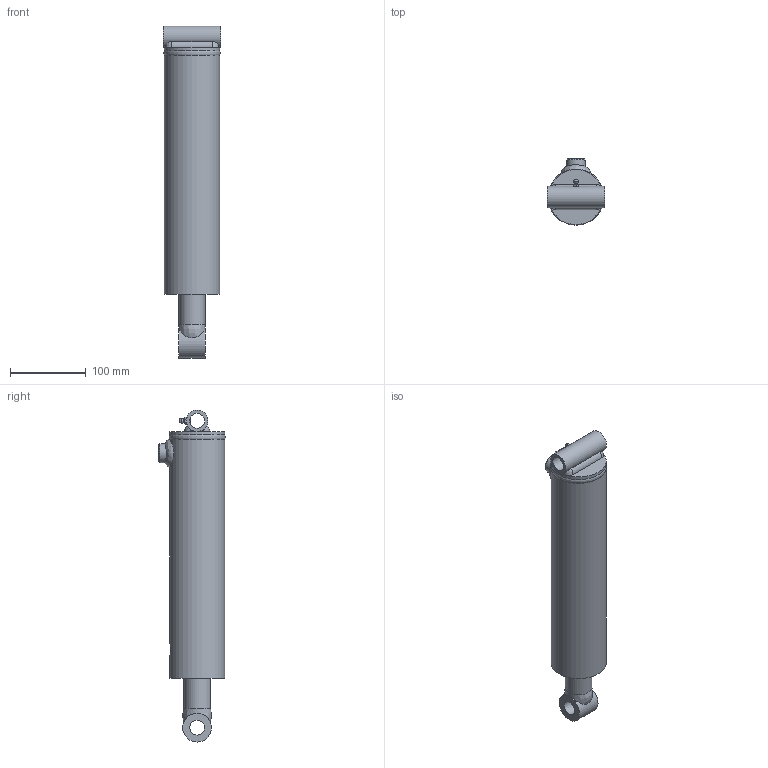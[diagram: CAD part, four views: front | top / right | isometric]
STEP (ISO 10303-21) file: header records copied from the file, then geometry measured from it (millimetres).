
FILE_DESCRIPTION((''),'2;1');
FILE_NAME('\\SRVR-ENG\EngSales\pmc-5408.stp','2012-04-30T08:15:25',('KneiflD'),(''),'Autodesk Inventor 2012','Autodesk Inventor 2012','');
FILE_SCHEMA(('AUTOMOTIVE_DESIGN { 1 0 10303 214 1 1 1 1 }'));
Length unit declared in the file: inch
Products named in the file (16): pmc-5408; 061300043; 051300068; 161300005; 200014303; 210300144; B&TWeldVest; PortWeldVest; X-tube Weld; 081300356; 020700166; 010700659; 210300202; Rod Weld; 270010020; 230001250
Assembly tree (15 placements, depth 3):
  pmc-5408
    061300043
      051300068
      161300005
      200014303
      210300144
      B&TWeldVest
      PortWeldVest
      X-tube Weld
    081300356
    020700166
      010700659
      210300202
      Rod Weld
    270010020
    230001250
Bounding box: 76.2 x 87.97 x 439.72 mm (x, y, z)
Volume: 855482.2 mm3; surface area: 256635.7 mm2
Topology: 13 solids, 13 shells, 135 faces, 290 edges, 185 vertices
Faces by surface type: cylinder 50, plane 50, cone 18, torus 9, bspline 7, sphere 1
Full cylindrical faces by diameter (mm): 1.524 x1, 2.794 x2, 5.41 x1, 6.074 x1, 8.839 x1, 9.525 x1, 13.889 x1, 18.999 x1, 19.558 x1, 19.837 x1, 19.844 x1, 25.4 x2, 28.575 x1, 34.925 x1, 35.001 x2, 38.1 x1, 38.71 x1, 41.275 x2, 42.85 x1, 48.768 x1, 54.864 x1, 58.725 x1, 63.246 x2, 63.5 x2, 65.088 x2, 67.259 x1, 73.025 x2
Entity records: 4796 total; most frequent: CARTESIAN_POINT 1690, DIRECTION 603, ORIENTED_EDGE 418, AXIS2_PLACEMENT_3D 280, EDGE_LOOP 236, EDGE_CURVE 209, VERTEX_POINT 171, FACE_OUTER_BOUND 135
